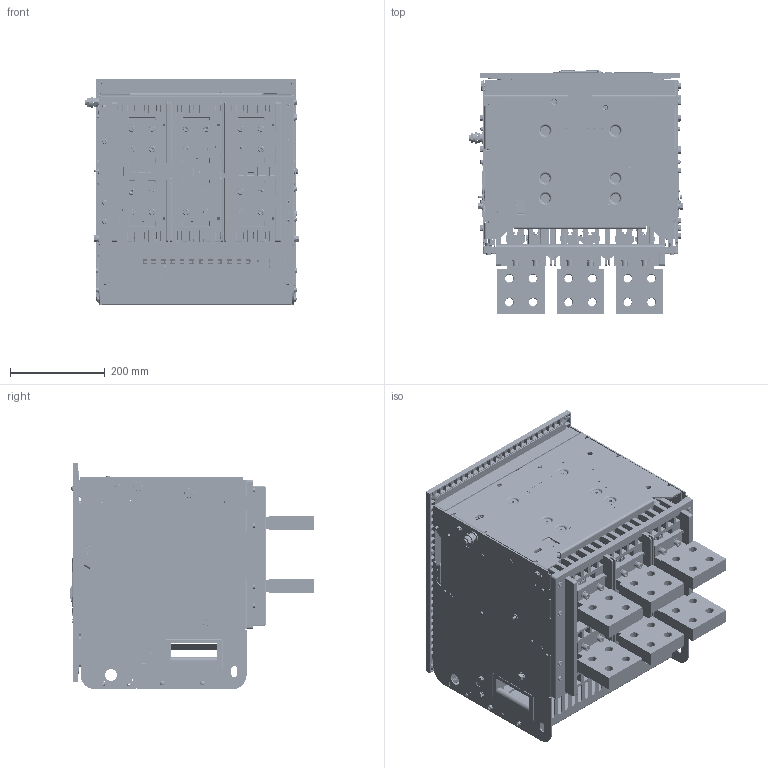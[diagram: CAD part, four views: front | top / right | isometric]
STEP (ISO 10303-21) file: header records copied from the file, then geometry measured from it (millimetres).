
FILE_DESCRIPTION (( 'STEP AP214' ), '1' );
FILE_NAME ('TEW5-4000 D 3P.STEP', '2026-04-03T12:19:37', ( '' ), ( '' ), 'SwSTEP 2.0', 'SolidWorks 2024', '' );
FILE_SCHEMA (( 'AUTOMOTIVE_DESIGN' ));
Products named in the file (1): TEW5-4000 D 3P
Bounding box: 452.15 x 515.6 x 479.22 mm (x, y, z)
Surface area: 3479107 mm2 (no closed solid volume)
Topology: 0 solids, 1482 shells, 7776 faces, 32738 edges, 25598 vertices
Faces by surface type: plane 4366, cylinder 2440, cone 535, torus 232, bspline 133, sphere 70
Entity records: 389928 total; most frequent: CARTESIAN_POINT 129198, DIRECTION 53111, ORIENTED_EDGE 44678, EDGE_CURVE 32687, VERTEX_POINT 25595, LINE 20615, VECTOR 20615, AXIS2_PLACEMENT_3D 16248
